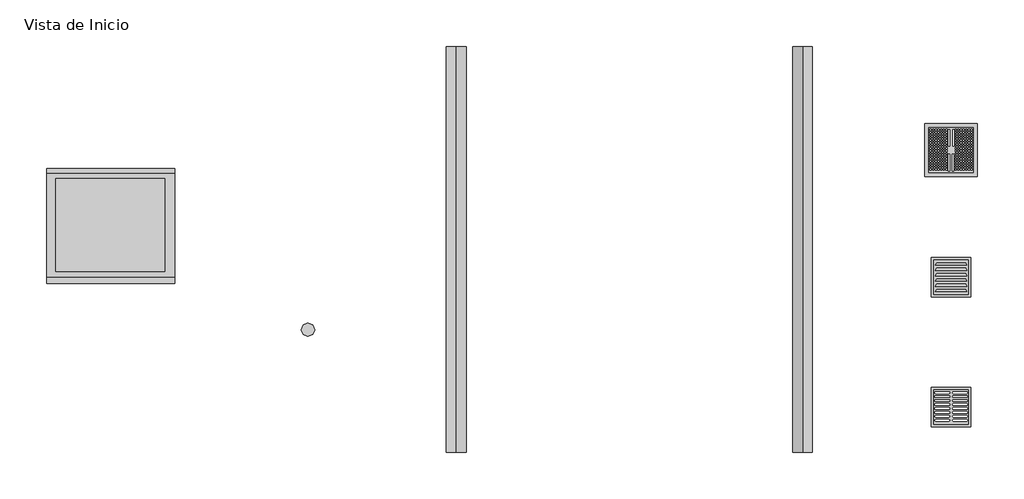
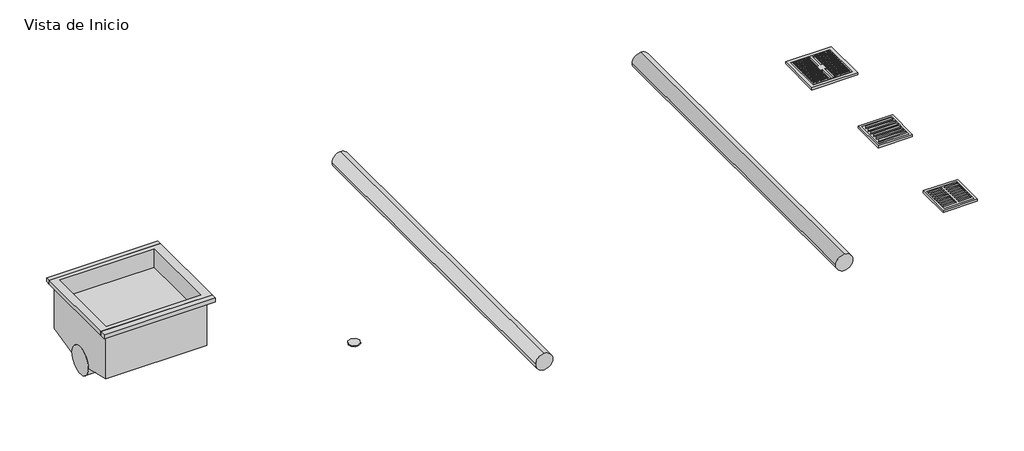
# One storey, incomplete: 5 pipe fittings, 2 pipe segments.
"""IFC4 building model written with IfcOpenShell, lengths in millimetres."""

from ifc_helpers import new_model, si_unit, point, frame, frame_2d, origin, place, context, project, spatial, circle_curve, trimmed, segment, composite_curve, outline, extrude, transform, mapped, element, save
from components import var_fe89f2a5, var_82650048, var_29f5bc66, var_73ac3ff6, var_fe454d0c, var_2a6e803b

model = new_model("IFC4")

# Units and contexts
model_context = context("Model", 3, world=origin())
ifc_project = project(units=[si_unit("LENGTHUNIT", "METRE", prefix="MILLI")], contexts=[model_context])

# Site, building, storey
site = spatial("IfcSite", under=ifc_project)
building = spatial("IfcBuilding", under=site)
storey = spatial("IfcBuildingStorey", under=building, Name="Vista de Inicio", Elevation=0.0)

# Pipe fittings
placement = place(None, origin())
var_shape = var_fe89f2a5(model_context)
element("IfcPipeFitting", 1, ObjectType="PlastigamaWavin_Unionesdetubería_SanitariaRejillaVentLineal15cm-20cm : Var.", at=placement, inside=storey, context=model_context, shape_type="MappedRepresentation", body=[
    mapped(var_shape, transform((5030.4680792, 398.6706408, 0.0), x_axis=(1.0, 0.0, 0.0), y_axis=(0.0, 1.0, 0.0), z_axis=(0.0, 0.0, 1.0))),
])
var_2_shape = var_82650048(model_context)
element("IfcPipeFitting", 2, ObjectType="PlastigamaWavin_Unionesdetubería_SanitariaRejillaVentPersiana15cm-20cm : Var.", at=placement, inside=storey, context=model_context, shape_type="MappedRepresentation", body=[
    mapped(var_2_shape, transform((5030.4680792, 891.6343327, 0.0), x_axis=(1.0, 0.0, 0.0), y_axis=(0.0, 1.0, 0.0), z_axis=(0.0, 0.0, 1.0))),
])
var_3_shape = var_29f5bc66(model_context)
var_4_shape = var_73ac3ff6(model_context)
element("IfcPipeFitting", 3, ObjectType="PlastigamaWavin_Unionesdetubería_SanitariaRejillaVentGas20cm : Var.", at=placement, inside=storey, context=model_context, shape_type="MappedRepresentation", body=[
    mapped(var_3_shape, transform((5030.4680792, 1348.1562499, 0.0), x_axis=(1.0, 0.0, 0.0), y_axis=(0.0, 1.0, 0.0), z_axis=(0.0, 0.0, 1.0))),
    mapped(var_4_shape, transform((5030.4680792, 1348.1562499, 0.0), x_axis=(1.0, 0.0, 0.0), y_axis=(0.0, 1.0, 0.0), z_axis=(0.0, 0.0, 1.0))),
])
var_5_shape = var_fe454d0c(model_context)
element("IfcPipeFitting", 4, ObjectType="PlastigamaWavin_Unionesdetubería_SanitariaCaucho : Var.", at=placement, inside=storey, context=model_context, shape_type="MappedRepresentation", body=[
    mapped(var_5_shape, transform((2593.3887775, 767.1010236, 0.0), x_axis=(1.0, 0.0, 0.0), y_axis=(0.0, 1.0, 0.0), z_axis=(0.0, 0.0, 1.0))),
])
var_6_shape = var_2a6e803b(model_context)
element("IfcPipeFitting", 5, ObjectType="PlastigamaWavin_Unionesdetubería_SanitariaCajaDomiciliaria : Var.", at=placement, inside=storey, context=model_context, shape_type="MappedRepresentation", body=[
    mapped(var_6_shape, transform((1845.7162754, 1358.9353349, 0.0038892), x_axis=(1.0, 0.0, 0.0), y_axis=(0.0, 1.0, 0.0), z_axis=(0.0, 0.0, 1.0))),
])

# Pipe segments
element("IfcPipeSegment", 6, ObjectType="PLASTIGAMA Sanitaria PVC Ventilación", at=placement, inside=storey, context=model_context, shape_type="SweptSolid", body=[
    extrude(outline(composite_curve([segment(trimmed(circle_curve(frame_2d((0.0, 4467.5062344)), 37.5), [point((0.0, 4430.0062344))], [point((-37.5, 4467.5062344))], False, "CARTESIAN"), True, "CONTINUOUS"), segment(trimmed(circle_curve(frame_2d((0.0, 4467.5062344)), 37.5), [point((-37.5, 4467.5062344))], [point((0.0, 4505.0062344))], False, "CARTESIAN"), True, "CONTINUOUS"), segment(trimmed(circle_curve(frame_2d((0.0, 4467.5062344)), 37.5), [point((0.0, 4505.0062344))], [point((37.5, 4467.5062344))], False, "CARTESIAN"), True, "CONTINUOUS"), segment(trimmed(circle_curve(frame_2d((0.0, 4467.5062344)), 37.5), [point((37.5, 4467.5062344))], [point((0.0, 4430.0062344))], False, "CARTESIAN"), True, "CONTINUOUS")], self_intersect=False)), frame((0.0, 301.3843932, 0.0), z_axis=(0.0, 1.0, 0.0), x_axis=(0.0, 0.0, 1.0)), (0.0, 0.0, 1.0), 1540.0),
])
element("IfcPipeSegment", 7, ObjectType="PLASTIGAMA Sanitaria PVC Desagüe", at=placement, inside=storey, context=model_context, shape_type="SweptSolid", body=[
    extrude(outline(composite_curve([segment(trimmed(circle_curve(frame_2d((0.0, 3155.2612968)), 37.5), [point((0.0, 3192.7612968))], [point((37.5, 3155.2612968))], False, "CARTESIAN"), True, "CONTINUOUS"), segment(trimmed(circle_curve(frame_2d((0.0, 3155.2612968)), 37.5), [point((37.5, 3155.2612968))], [point((0.0, 3117.7612968))], False, "CARTESIAN"), True, "CONTINUOUS"), segment(trimmed(circle_curve(frame_2d((0.0, 3155.2612968)), 37.5), [point((0.0, 3117.7612968))], [point((-37.5, 3155.2612968))], False, "CARTESIAN"), True, "CONTINUOUS"), segment(trimmed(circle_curve(frame_2d((0.0, 3155.2612968)), 37.5), [point((-37.5, 3155.2612968))], [point((0.0, 3192.7612968))], False, "CARTESIAN"), True, "CONTINUOUS")], self_intersect=False)), frame((0.0, 301.3843932, 0.0), z_axis=(0.0, 1.0, 0.0), x_axis=(0.0, 0.0, 1.0)), (0.0, 0.0, 1.0), 1540.0),
])

save(model, "model.ifc")
